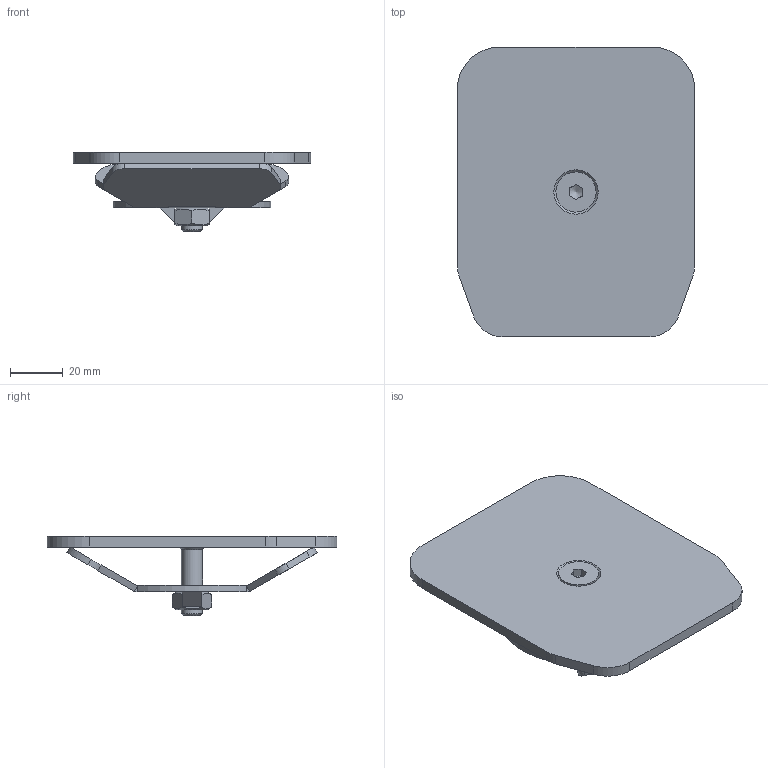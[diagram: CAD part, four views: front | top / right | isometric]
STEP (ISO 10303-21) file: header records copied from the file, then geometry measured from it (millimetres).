
FILE_DESCRIPTION(/* description */ ('Laufrohrabschluss Nr.5'),/* implementation_level */ '2;1');
FILE_NAME(/* name */ 'Q:\sge-ma\Produktmanagement-STB\STB\Workspace\TraceParts\Laufrohrabschluss\010337055.stp',/* time_stamp */ '2018-03-05T10:42:50+01:00',/* author */ ('avschreier'),/* organization */ (''),/* preprocessor_version */ 'ST-DEVELOPER v16.1',/* originating_system */ 'Autodesk Inventor 2016',/* authorisation */ '');
FILE_SCHEMA (('CONFIG_CONTROL_DESIGN'));
Length unit declared in the file: millimetre
Products named in the file (6): 010337055_Schweißnähte; 337000277; 337000276; DIN_EN_ISO_4032-M8_en; DIN_EN_ISO_10642-M8x30_en; 010337055
Assembly tree (5 placements, depth 2):
  010337055
    010337055_Schweißnähte
    337000277
    337000276
    DIN_EN_ISO_4032-M8_en
    DIN_EN_ISO_10642-M8x30_en
Bounding box: 90 x 110 x 30 mm (x, y, z)
Volume: 55017.3 mm3; surface area: 35533.2 mm2
Topology: 6 solids, 6 shells, 116 faces, 291 edges, 189 vertices
Faces by surface type: plane 84, cylinder 24, cone 8
Full cylindrical faces by diameter (mm): 6.647 x1, 8 x1, 8.5 x1, 15.24 x1
Entity records: 3499 total; most frequent: CARTESIAN_POINT 627, DIRECTION 568, ORIENTED_EDGE 550, EDGE_CURVE 275, LINE 204, VECTOR 204, VERTEX_POINT 183, AXIS2_PLACEMENT_3D 182
